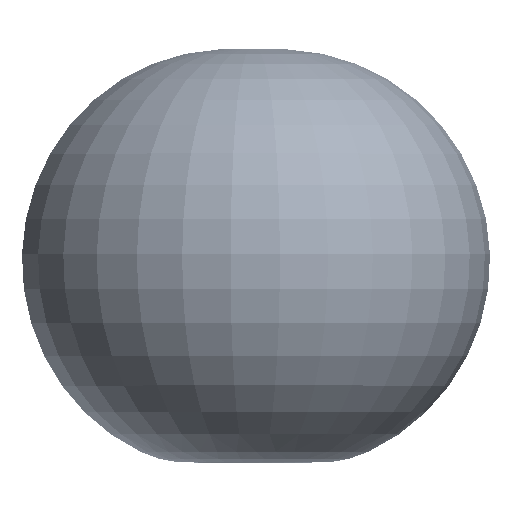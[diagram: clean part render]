
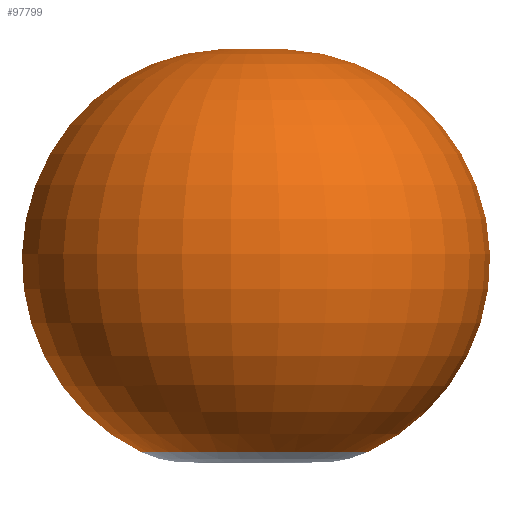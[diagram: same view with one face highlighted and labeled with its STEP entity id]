
A CAD part, top view. The second image highlights one B-rep face of the part: STEP entity #97799.
In plain terms, the highlighted toroidal (fillet/blend) face has major radius 170 mm and minor radius 1384 mm.
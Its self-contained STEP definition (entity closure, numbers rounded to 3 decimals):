
#8987 = AXIS2_PLACEMENT_3D ( 'NONE', #570380, #290665, #11086 ) ;
#11086 = DIRECTION ( 'NONE',  ( 1., 0., 0. ) ) ;
#49223 = VERTEX_POINT ( 'NONE', #170597 ) ;
#97799 = ADVANCED_FACE ( 'NONE', ( #500398 ), #783350, .T. ) ;
#134707 = CARTESIAN_POINT ( 'NONE',  ( -165.643, 443., 38.242 ) ) ;
#170060 = EDGE_CURVE ( 'NONE', #866010, #250128, #498997, .T. ) ;
#170597 = CARTESIAN_POINT ( 'NONE',  ( 0., 1816.52, 0. ) ) ;
#241884 = CARTESIAN_POINT ( 'NONE',  ( 754.904, -811.33, 0. ) ) ;
#246816 = ORIENTED_EDGE ( 'NONE', *, *, #170060, .F. ) ;
#250128 = VERTEX_POINT ( 'NONE', #443793 ) ;
#262862 = AXIS2_PLACEMENT_3D ( 'NONE', #765074, #581743, #695106 ) ;
#272499 = CIRCLE ( 'NONE', #659065, 1384. ) ;
#290665 = DIRECTION ( 'NONE',  ( 0., -1., 0. ) ) ;
#339607 = EDGE_CURVE ( 'NONE', #250128, #49223, #406067, .T. ) ;
#406067 = CIRCLE ( 'NONE', #465944, 1384. ) ;
#428125 = DIRECTION ( 'NONE',  ( -0.974, 0., 0.225 ) ) ;
#443793 = CARTESIAN_POINT ( 'NONE',  ( -735.556, -811.33, 169.816 ) ) ;
#462799 = CARTESIAN_POINT ( 'NONE',  ( 170., 443., 0. ) ) ;
#465944 = AXIS2_PLACEMENT_3D ( 'NONE', #134707, #707843, #428125 ) ;
#498997 = CIRCLE ( 'NONE', #262862, 754.904 ) ;
#500398 = FACE_OUTER_BOUND ( 'NONE', #674500, .T. ) ;
#532691 = DIRECTION ( 'NONE',  ( 0., 0., -1. ) ) ;
#570380 = CARTESIAN_POINT ( 'NONE',  ( 0., 443., 0. ) ) ;
#581743 = DIRECTION ( 'NONE',  ( 0., -1., 0. ) ) ;
#581924 = ORIENTED_EDGE ( 'NONE', *, *, #339607, .F. ) ;
#659065 = AXIS2_PLACEMENT_3D ( 'NONE', #462799, #532691, #817110 ) ;
#674500 = EDGE_LOOP ( 'NONE', ( #917911, #581924, #246816 ) ) ;
#695106 = DIRECTION ( 'NONE',  ( 1., 0., 0. ) ) ;
#707843 = DIRECTION ( 'NONE',  ( -0.225, 0., -0.974 ) ) ;
#765074 = CARTESIAN_POINT ( 'NONE',  ( 0., -811.33, 0. ) ) ;
#783350 = TOROIDAL_SURFACE ( 'NONE', #8987, 170., 1384. ) ;
#817110 = DIRECTION ( 'NONE',  ( -1., 0., 0. ) ) ;
#854418 = EDGE_CURVE ( 'NONE', #49223, #866010, #272499, .T. ) ;
#866010 = VERTEX_POINT ( 'NONE', #241884 ) ;
#917911 = ORIENTED_EDGE ( 'NONE', *, *, #854418, .F. ) ;
